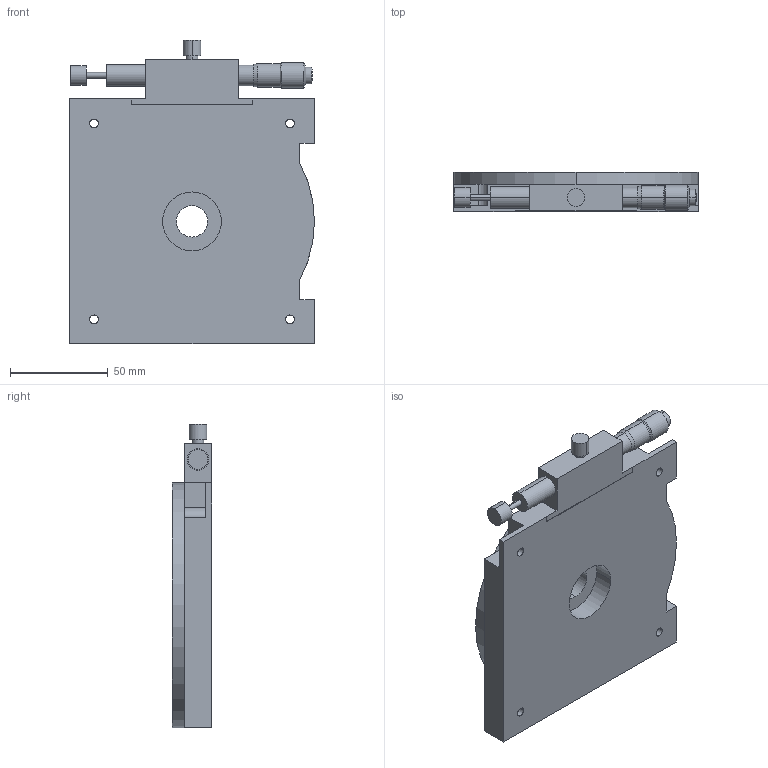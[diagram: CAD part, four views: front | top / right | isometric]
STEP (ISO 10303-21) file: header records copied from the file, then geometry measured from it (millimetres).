
FILE_DESCRIPTION (( 'STEP AP203' ), '1' );
FILE_NAME ('RS-147-1_a.STEP', '2023-06-30T02:33:53', ( '' ), ( '' ), 'SwSTEP 2.0', 'SolidWorks 2021', '' );
FILE_SCHEMA (( 'CONFIG_CONTROL_DESIGN' ));
Length unit declared in the file: millimetre
Products named in the file (3): RS-147-1_a; RS-147-1-1_a; RS-147-1-2_a
Assembly tree (2 placements, depth 2):
  RS-147-1_a
    RS-147-1-1_a
    RS-147-1-2_a
Bounding box: 125 x 20 x 155 mm (x, y, z)
Volume: 288021.9 mm3; surface area: 73675.5 mm2
Topology: 2 solids, 6 shells, 161 faces, 398 edges, 261 vertices
Faces by surface type: cylinder 105, plane 48, cone 6, sphere 2
Entity records: 5285 total; most frequent: DIRECTION 942, CARTESIAN_POINT 825, ORIENTED_EDGE 796, EDGE_CURVE 398, AXIS2_PLACEMENT_3D 378, VERTEX_POINT 261, EDGE_LOOP 237, CIRCLE 212
